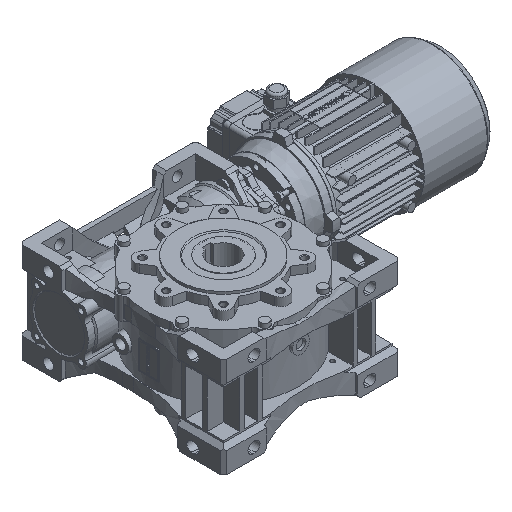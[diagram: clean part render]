
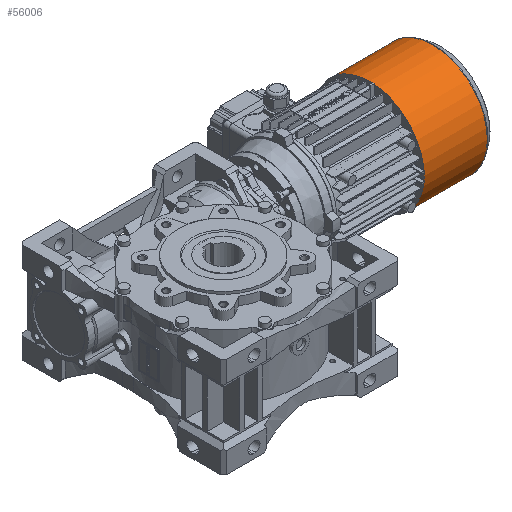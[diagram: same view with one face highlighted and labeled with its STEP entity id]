
A CAD part, isometric view. The second image highlights one B-rep face of the part: STEP entity #56006.
In plain terms, the highlighted cylindrical face has radius 78.95 mm (diameter 157.9 mm), a full revolution.
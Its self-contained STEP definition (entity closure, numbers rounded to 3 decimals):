
#19040=ORIENTED_EDGE('',*,*,#32532,.F.);
#19041=ORIENTED_EDGE('',*,*,#32531,.T.);
#32531=EDGE_CURVE('',#39847,#39847,#44701,.T.);
#32532=EDGE_CURVE('',#39848,#39848,#44702,.T.);
#39847=VERTEX_POINT('',#98543);
#39848=VERTEX_POINT('',#98546);
#44701=CIRCLE('',#70804,78.95);
#44702=CIRCLE('',#70806,78.95);
#47537=EDGE_LOOP('',(#19040));
#47538=EDGE_LOOP('',(#19041));
#51122=FACE_BOUND('',#47537,.T.);
#51123=FACE_BOUND('',#47538,.T.);
#54095=CYLINDRICAL_SURFACE('',#70805,78.95);
#56006=ADVANCED_FACE('',(#51122,#51123),#54095,.T.);
#70804=AXIS2_PLACEMENT_3D('',#98542,#81530,#81531);
#70805=AXIS2_PLACEMENT_3D('',#98544,#81532,#81533);
#70806=AXIS2_PLACEMENT_3D('',#98545,#81534,#81535);
#81530=DIRECTION('',(1.,0.,0.));
#81531=DIRECTION('',(0.,0.,-1.));
#81532=DIRECTION('',(1.,0.,0.));
#81533=DIRECTION('',(0.,0.,-1.));
#81534=DIRECTION('',(1.,0.,0.));
#81535=DIRECTION('',(0.,0.,-1.));
#98542=CARTESIAN_POINT('',(0.,0.,0.));
#98543=CARTESIAN_POINT('',(0.,0.,-78.95));
#98544=CARTESIAN_POINT('',(103.,0.,0.));
#98545=CARTESIAN_POINT('',(91.016,0.,0.));
#98546=CARTESIAN_POINT('',(91.016,0.,-78.95));
